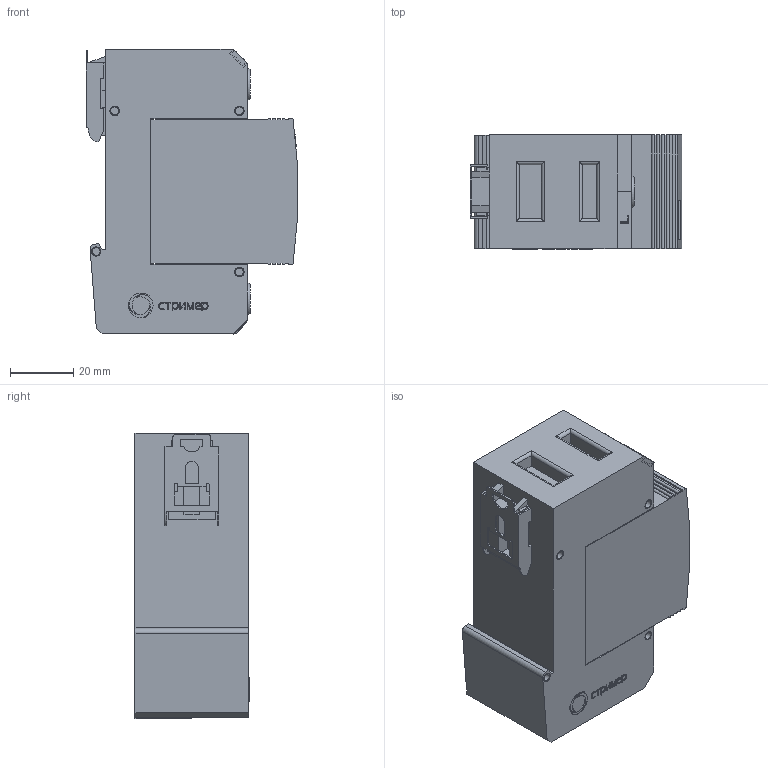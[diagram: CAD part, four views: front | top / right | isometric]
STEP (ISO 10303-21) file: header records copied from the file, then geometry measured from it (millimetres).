
FILE_DESCRIPTION(('TFLEX Exchange Step'),'2;1');
FILE_NAME('X2\041004400442\X0\.111_003.stp', '2022-08-30T13:45:11+03:00',('Ivan Berdigulov'),('Unknown organisation'),'TFLEX Exchange 2019.2','T-FLEX CAD','Unknown authorisation');
FILE_SCHEMA( ('AUTOMOTIVE_DESIGN { 1 0 10303 214 1 1 1 1 }') );
Length unit declared in the file: millimetre
Products named in the file (2): 0
Assembly tree (1 placements, depth 2):
  0
    0
Bounding box: 66.98 x 36.1 x 90.35 mm (x, y, z)
Volume: 172735.5 mm3; surface area: 34896.8 mm2
Topology: 29 solids, 29 shells, 412 faces, 1067 edges, 722 vertices
Faces by surface type: plane 292, cylinder 87, bspline 31, torus 2
Full cylindrical faces by diameter (mm): 2.5 x12, 3 x12
Entity records: 15831 total; most frequent: CARTESIAN_POINT 5788, ORIENTED_EDGE 2082, DIRECTION 1878, EDGE_CURVE 1041, VECTOR 746, LINE 746, VERTEX_POINT 722, AXIS2_PLACEMENT_3D 566
